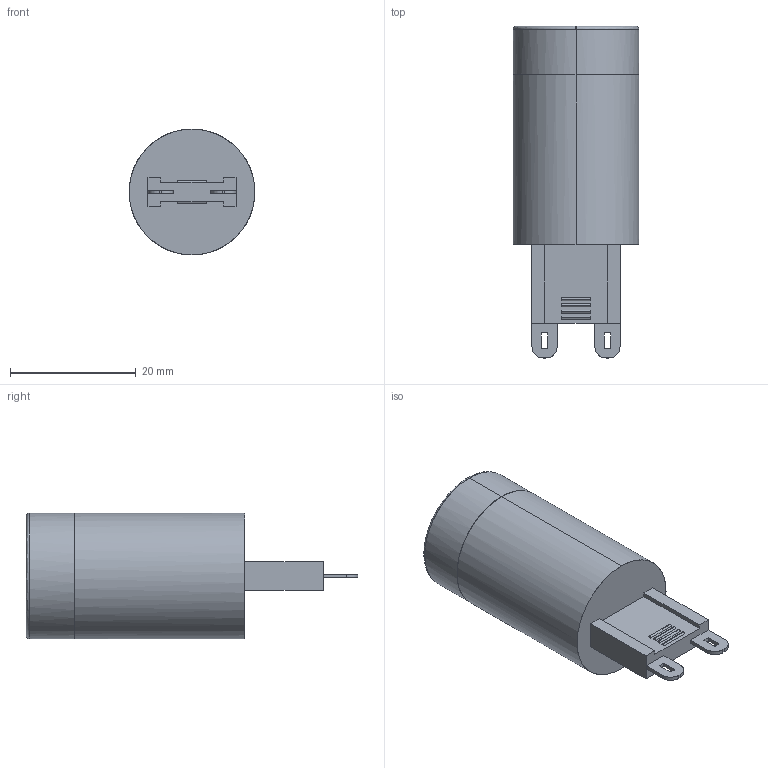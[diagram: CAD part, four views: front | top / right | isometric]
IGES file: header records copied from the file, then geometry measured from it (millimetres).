
Start section: SolidWorks IGES file using NURBS representation for surfaces
Global section: file name: Z:\Modele 3D_WWW\_KOLEKCJE_WWW\REFLECTOR\BULB-LED-G9-LENS-9173\BULB-LED-G9-LENS-9173.IGS; native system: SolidWorks 2021; preprocessor: SolidWorks 2021; author: gabriela.tworek; date: 210914.082325; units: millimetre
Bounding box: 20 x 52.79 x 20 mm (x, y, z)
Surface area: 4452 mm2 (no closed solid volume)
Topology: 0 solids, 0 shells, 121 faces, 876 edges, 874 vertices
Faces by surface type: bspline 121
